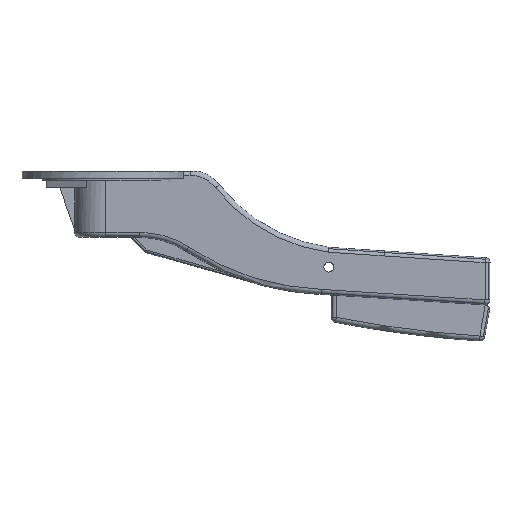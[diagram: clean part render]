
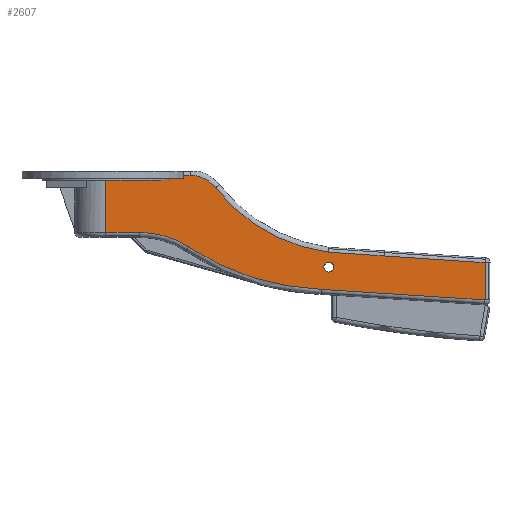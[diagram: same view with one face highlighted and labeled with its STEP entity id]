
A CAD part, top view. The second image highlights one B-rep face of the part: STEP entity #2607.
In plain terms, the highlighted planar face has unit normal (0, 0, 1).
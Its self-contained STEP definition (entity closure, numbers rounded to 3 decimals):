
#959=CARTESIAN_POINT('',(89.802,-32.712,12.501));
#960=VERTEX_POINT('',#959);
#974=CARTESIAN_POINT('',(112.291,-34.211,12.501));
#975=VERTEX_POINT('',#974);
#976=CARTESIAN_POINT('',(89.802,-32.712,12.501));
#977=DIRECTION('',(0.998,-0.067,0.));
#978=VECTOR('',#977,22.539);
#979=LINE('',#976,#978);
#980=EDGE_CURVE('',#960,#975,#979,.T.);
#1138=CARTESIAN_POINT('',(91.999,-38.721,12.501));
#1139=VERTEX_POINT('',#1138);
#1148=CARTESIAN_POINT('',(87.999,-38.721,12.501));
#1149=VERTEX_POINT('',#1148);
#1150=CARTESIAN_POINT('',(89.999,-38.721,12.501));
#1151=DIRECTION('',(0.0,0.0,-1.0));
#1152=DIRECTION('',(1.0,0.0,0.0));
#1153=AXIS2_PLACEMENT_3D('',#1150,#1151,#1152);
#1154=CIRCLE('',#1153,2.0);
#1155=EDGE_CURVE('',#1149,#1139,#1154,.T.);
#1190=CARTESIAN_POINT('',(13.69,-24.721,12.501));
#1191=VERTEX_POINT('',#1190);
#1199=CARTESIAN_POINT('',(-0.001,-24.721,12.501));
#1200=VERTEX_POINT('',#1199);
#1201=CARTESIAN_POINT('',(13.69,-24.721,12.501));
#1202=DIRECTION('',(-1.,0.,0.));
#1203=VECTOR('',#1202,13.691);
#1204=LINE('',#1201,#1203);
#1205=EDGE_CURVE('',#1191,#1200,#1204,.T.);
#1350=CARTESIAN_POINT('',(153.015,-51.948,12.501));
#1351=VERTEX_POINT('',#1350);
#1359=CARTESIAN_POINT('',(87.1,-47.723,12.501));
#1360=VERTEX_POINT('',#1359);
#1361=CARTESIAN_POINT('',(153.015,-51.948,12.501));
#1362=DIRECTION('',(-0.998,0.064,0.));
#1363=VECTOR('',#1362,66.051);
#1364=LINE('',#1361,#1363);
#1365=EDGE_CURVE('',#1351,#1360,#1364,.T.);
#1534=CARTESIAN_POINT('',(112.289,-34.237,12.501));
#1535=VERTEX_POINT('',#1534);
#1543=CARTESIAN_POINT('',(153.015,-36.952,12.501));
#1544=VERTEX_POINT('',#1543);
#1545=CARTESIAN_POINT('',(112.289,-34.237,12.501));
#1546=DIRECTION('',(0.998,-0.067,0.));
#1547=VECTOR('',#1546,40.817);
#1548=LINE('',#1545,#1547);
#1549=EDGE_CURVE('',#1535,#1544,#1548,.T.);
#1667=CARTESIAN_POINT('',(153.015,-36.952,12.501));
#1668=DIRECTION('',(0.,-1.,0.));
#1669=VECTOR('',#1668,14.997);
#1670=LINE('',#1667,#1669);
#1671=EDGE_CURVE('',#1544,#1351,#1670,.T.);
#1830=CARTESIAN_POINT('',(31.35,-2.968,12.501));
#1831=VERTEX_POINT('',#1830);
#1839=CARTESIAN_POINT('',(31.35,-1.68,12.501));
#1840=VERTEX_POINT('',#1839);
#1841=CARTESIAN_POINT('',(31.35,-1.68,12.501));
#1842=DIRECTION('',(0.0,-1.0,0.0));
#1843=VECTOR('',#1842,1.289);
#1844=LINE('',#1841,#1843);
#1845=EDGE_CURVE('',#1840,#1831,#1844,.T.);
#2245=CARTESIAN_POINT('',(25.65,-2.968,12.501));
#2246=VERTEX_POINT('',#2245);
#2254=CARTESIAN_POINT('',(25.65,-3.72,12.501));
#2255=VERTEX_POINT('',#2254);
#2262=CARTESIAN_POINT('',(25.65,-3.72,12.501));
#2263=DIRECTION('',(0.0,1.0,0.0));
#2264=VECTOR('',#2263,0.751);
#2265=LINE('',#2262,#2264);
#2266=EDGE_CURVE('',#2255,#2246,#2265,.T.);
#2423=CARTESIAN_POINT('',(31.35,-2.968,12.501));
#2424=DIRECTION('',(-1.0,0.0,0.0));
#2425=VECTOR('',#2424,5.7);
#2426=LINE('',#2423,#2425);
#2427=EDGE_CURVE('',#1831,#2246,#2426,.T.);
#2442=CARTESIAN_POINT('',(34.047,-1.68,12.501));
#2443=VERTEX_POINT('',#2442);
#2444=CARTESIAN_POINT('',(34.047,-1.68,12.501));
#2445=DIRECTION('',(-1.0,0.0,0.0));
#2446=VECTOR('',#2445,2.698);
#2447=LINE('',#2444,#2446);
#2448=EDGE_CURVE('',#2443,#1840,#2447,.T.);
#2499=CARTESIAN_POINT('',(-0.001,-3.72,12.501));
#2500=VERTEX_POINT('',#2499);
#2507=CARTESIAN_POINT('',(25.65,-3.72,12.501));
#2508=DIRECTION('',(-1.0,0.0,0.0));
#2509=VECTOR('',#2508,25.651);
#2510=LINE('',#2507,#2509);
#2511=EDGE_CURVE('',#2255,#2500,#2510,.T.);
#2524=CARTESIAN_POINT('',(44.299,-6.686,12.501));
#2525=VERTEX_POINT('',#2524);
#2526=CARTESIAN_POINT('',(34.047,-14.68,12.501));
#2527=DIRECTION('',(0.0,0.0,-1.0));
#2528=DIRECTION('',(1.0,0.0,0.0));
#2529=AXIS2_PLACEMENT_3D('',#2526,#2527,#2528);
#2530=CIRCLE('',#2529,13.);
#2531=EDGE_CURVE('',#2443,#2525,#2530,.T.);
#2544=CARTESIAN_POINT('',(89.999,-30.721,12.501));
#2545=DIRECTION('',(0.0,0.0,1.0));
#2546=DIRECTION('',(1.0,0.0,0.0));
#2547=AXIS2_PLACEMENT_3D('',#2544,#2545,#2546);
#2548=PLANE('',#2547);
#2549=ORIENTED_EDGE('',*,*,#2427,.T.);
#2550=ORIENTED_EDGE('',*,*,#2266,.F.);
#2551=ORIENTED_EDGE('',*,*,#2511,.T.);
#2552=CARTESIAN_POINT('',(-0.001,-24.721,12.501));
#2553=DIRECTION('',(0.0,1.0,0.0));
#2554=VECTOR('',#2553,21.001);
#2555=LINE('',#2552,#2554);
#2556=EDGE_CURVE('',#1200,#2500,#2555,.T.);
#2557=ORIENTED_EDGE('',*,*,#2556,.F.);
#2558=ORIENTED_EDGE('',*,*,#1205,.F.);
#2559=CARTESIAN_POINT('',(33.425,-30.612,12.501));
#2560=VERTEX_POINT('',#2559);
#2561=CARTESIAN_POINT('',(13.69,-60.72,12.501));
#2562=DIRECTION('',(0.0,0.0,1.0));
#2563=DIRECTION('',(1.0,0.0,0.0));
#2564=AXIS2_PLACEMENT_3D('',#2561,#2562,#2563);
#2565=CIRCLE('',#2564,36.);
#2566=EDGE_CURVE('',#2560,#1191,#2565,.T.);
#2567=ORIENTED_EDGE('',*,*,#2566,.F.);
#2568=CARTESIAN_POINT('',(90.985,57.205,12.501));
#2569=DIRECTION('',(0.0,0.0,-1.0));
#2570=DIRECTION('',(-1.0,0.0,0.0));
#2571=AXIS2_PLACEMENT_3D('',#2568,#2569,#2570);
#2572=CIRCLE('',#2571,105.);
#2573=EDGE_CURVE('',#1360,#2560,#2572,.T.);
#2574=ORIENTED_EDGE('',*,*,#2573,.F.);
#2575=ORIENTED_EDGE('',*,*,#1365,.F.);
#2576=ORIENTED_EDGE('',*,*,#1671,.F.);
#2577=ORIENTED_EDGE('',*,*,#1549,.F.);
#2578=CARTESIAN_POINT('',(112.291,-34.211,12.501));
#2579=DIRECTION('',(-0.064,-0.998,0.));
#2580=VECTOR('',#2579,0.026);
#2581=LINE('',#2578,#2580);
#2582=EDGE_CURVE('',#975,#1535,#2581,.T.);
#2583=ORIENTED_EDGE('',*,*,#2582,.F.);
#2584=ORIENTED_EDGE('',*,*,#980,.F.);
#2585=CARTESIAN_POINT('',(98.798,35.807,12.501));
#2586=DIRECTION('',(0.0,0.0,1.0));
#2587=DIRECTION('',(-1.0,0.0,0.0));
#2588=AXIS2_PLACEMENT_3D('',#2585,#2586,#2587);
#2589=CIRCLE('',#2588,69.107);
#2590=EDGE_CURVE('',#2525,#960,#2589,.T.);
#2591=ORIENTED_EDGE('',*,*,#2590,.F.);
#2592=ORIENTED_EDGE('',*,*,#2531,.F.);
#2593=ORIENTED_EDGE('',*,*,#2448,.T.);
#2594=ORIENTED_EDGE('',*,*,#1845,.T.);
#2595=EDGE_LOOP('',(#2549,#2550,#2551,#2557,#2558,#2567,#2574,#2575,#2576,#2577,#2583,#2584,#2591,#2592,#2593,#2594));
#2596=FACE_OUTER_BOUND('',#2595,.T.);
#2597=CARTESIAN_POINT('',(89.999,-38.721,12.501));
#2598=DIRECTION('',(0.0,0.0,-1.0));
#2599=DIRECTION('',(1.0,0.0,0.0));
#2600=AXIS2_PLACEMENT_3D('',#2597,#2598,#2599);
#2601=CIRCLE('',#2600,2.0);
#2602=EDGE_CURVE('',#1139,#1149,#2601,.T.);
#2603=ORIENTED_EDGE('',*,*,#2602,.T.);
#2604=ORIENTED_EDGE('',*,*,#1155,.T.);
#2605=EDGE_LOOP('',(#2603,#2604));
#2606=FACE_BOUND('',#2605,.T.);
#2607=ADVANCED_FACE('',(#2596,#2606),#2548,.T.);
